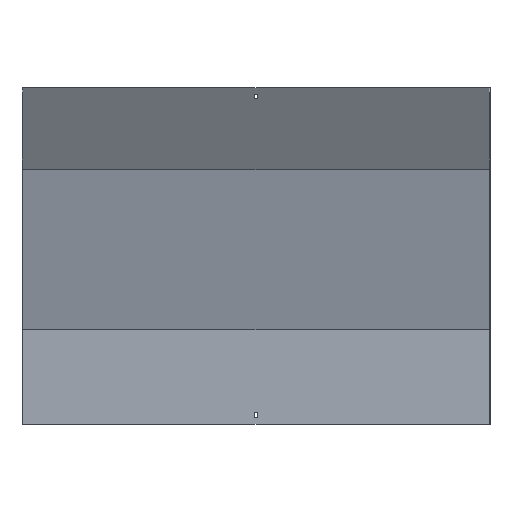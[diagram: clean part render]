
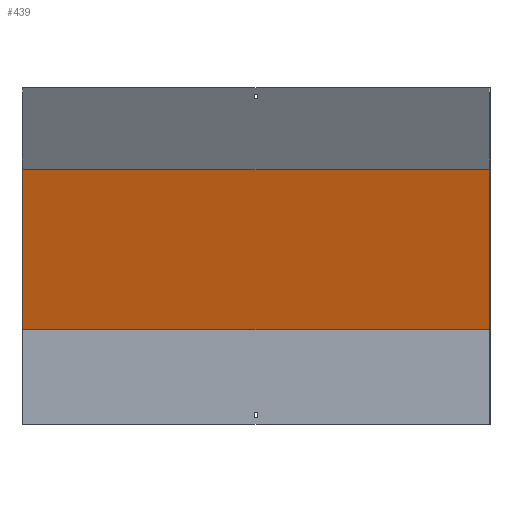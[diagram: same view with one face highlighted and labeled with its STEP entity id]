
A CAD part, front view. The second image highlights one B-rep face of the part: STEP entity #439.
In plain terms, the highlighted planar face has unit normal (0, -0.966, -0.259).
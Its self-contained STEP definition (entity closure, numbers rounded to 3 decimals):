
#14 = EDGE_LOOP ( 'NONE', ( #854, #308, #776, #560 ) ) ;
#28 = CARTESIAN_POINT ( 'NONE',  ( 400., -54.971, 436.634 ) ) ;
#41 = DIRECTION ( 'NONE',  ( -1., 0., 0. ) ) ;
#165 = VECTOR ( 'NONE', #774, 1000. ) ;
#185 = EDGE_CURVE ( 'NONE', #496, #362, #234, .T. ) ;
#234 = LINE ( 'NONE', #499, #165 ) ;
#271 = DIRECTION ( 'NONE',  ( 0., -0.259, 0.966 ) ) ;
#276 = CARTESIAN_POINT ( 'NONE',  ( -400., 57.87, 15.506 ) ) ;
#308 = ORIENTED_EDGE ( 'NONE', *, *, #185, .F. ) ;
#357 = CARTESIAN_POINT ( 'NONE',  ( 401.5, -54.971, 436.634 ) ) ;
#362 = VERTEX_POINT ( 'NONE', #813 ) ;
#367 = VERTEX_POINT ( 'NONE', #730 ) ;
#371 = LINE ( 'NONE', #357, #752 ) ;
#382 = VECTOR ( 'NONE', #765, 1000. ) ;
#415 = FACE_OUTER_BOUND ( 'NONE', #14, .T. ) ;
#421 = DIRECTION ( 'NONE',  ( 0., -0.966, -0.259 ) ) ;
#439 = ADVANCED_FACE ( 'NONE', ( #415 ), #546, .T. ) ;
#461 = CARTESIAN_POINT ( 'NONE',  ( 400., 18.5, 162.436 ) ) ;
#468 = VERTEX_POINT ( 'NONE', #28 ) ;
#489 = CARTESIAN_POINT ( 'NONE',  ( 400., 57.87, 15.506 ) ) ;
#496 = VERTEX_POINT ( 'NONE', #461 ) ;
#499 = CARTESIAN_POINT ( 'NONE',  ( 401.5, 18.5, 162.436 ) ) ;
#546 = PLANE ( 'NONE',  #620 ) ;
#560 = ORIENTED_EDGE ( 'NONE', *, *, #628, .T. ) ;
#582 = EDGE_CURVE ( 'NONE', #362, #367, #610, .T. ) ;
#610 = LINE ( 'NONE', #276, #720 ) ;
#620 = AXIS2_PLACEMENT_3D ( 'NONE', #622, #421, #627 ) ;
#622 = CARTESIAN_POINT ( 'NONE',  ( 401.5, 17.87, 164.788 ) ) ;
#627 = DIRECTION ( 'NONE',  ( 0., 0.259, -0.966 ) ) ;
#628 = EDGE_CURVE ( 'NONE', #468, #367, #371, .T. ) ;
#662 = EDGE_CURVE ( 'NONE', #496, #468, #831, .T. ) ;
#720 = VECTOR ( 'NONE', #271, 1000. ) ;
#730 = CARTESIAN_POINT ( 'NONE',  ( -400., -54.971, 436.634 ) ) ;
#752 = VECTOR ( 'NONE', #41, 1000. ) ;
#765 = DIRECTION ( 'NONE',  ( 0., -0.259, 0.966 ) ) ;
#774 = DIRECTION ( 'NONE',  ( -1., 0., 0. ) ) ;
#776 = ORIENTED_EDGE ( 'NONE', *, *, #662, .T. ) ;
#813 = CARTESIAN_POINT ( 'NONE',  ( -400., 18.5, 162.436 ) ) ;
#831 = LINE ( 'NONE', #489, #382 ) ;
#854 = ORIENTED_EDGE ( 'NONE', *, *, #582, .F. ) ;
